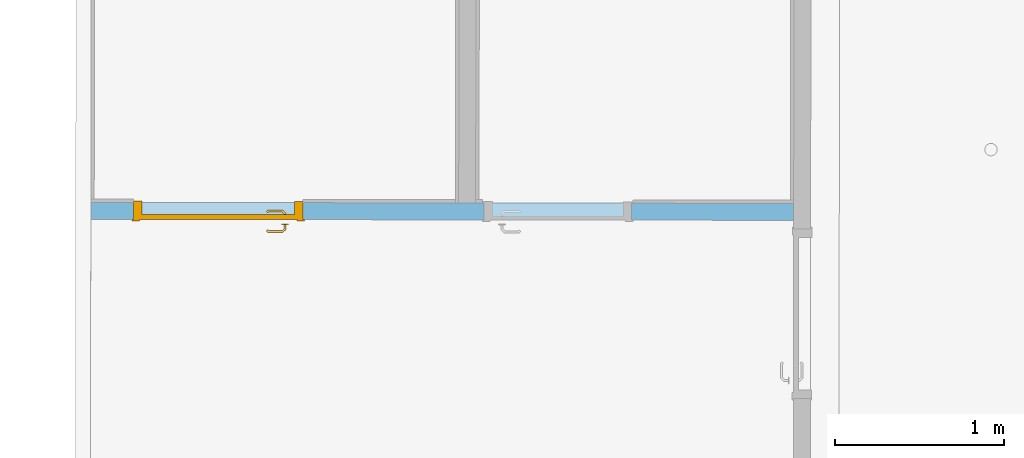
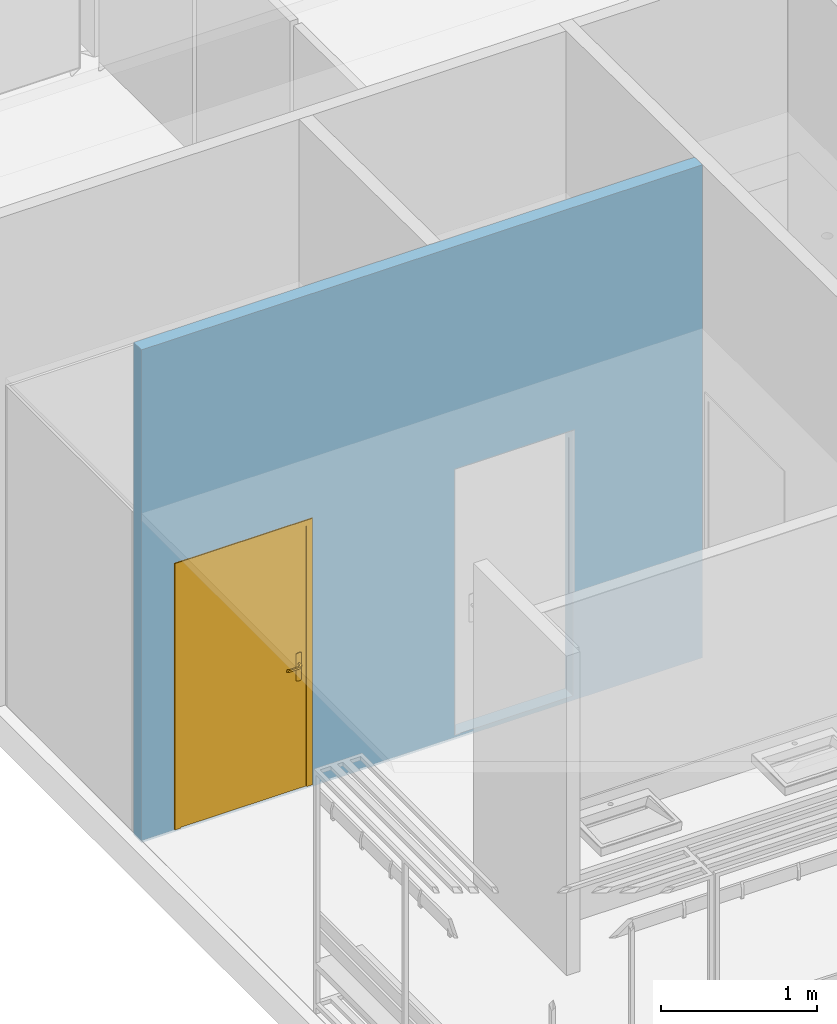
# One storey, part 24 of 43: 1 door, 2 openings, plus 1 element that does not belong to this part.
"""IFC2X3 building model written with IfcOpenShell, lengths in metres."""

from ifc_helpers import new_model, entity, si_unit, converted_unit, derived_unit, direction, frame, frame_2d, origin, place, context, subcontext, project, spatial, polyline, rectangle, outline, extrude, clip, bounded_halfspace, faceted_brep, source, transform, mapped, material, material_list, layer, layer_set, layer_usage, type_object, type_shapes, element, fill, save


model = new_model("IFC2X3")

# Units and contexts
model_context = context("Model", 3, precision=1e-05, world=origin(), true_north=direction((6.123233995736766e-17, 1.0)))
body_context = subcontext(model_context, "Body", "Model", "MODEL_VIEW")
ifc_project = project(units=[si_unit("LENGTHUNIT", "METRE"), si_unit("AREAUNIT", "SQUARE_METRE"), converted_unit("PLANEANGLEUNIT", "DEGREE", entity("IfcPlaneAngleMeasure", 0.017453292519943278), si_unit("PLANEANGLEUNIT", "RADIAN"), dimensions=[0, 0, 0, 0, 0, 0, 0]), derived_unit("THERMALTRANSMITTANCEUNIT", [(si_unit("MASSUNIT", "GRAM", prefix="KILO"), 1), (si_unit("THERMODYNAMICTEMPERATUREUNIT", "KELVIN"), -1), (si_unit("TIMEUNIT", "SECOND"), -3)])], contexts=[model_context])

# Site, building, storey
site_placement = place(None, frame((1253.6752467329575, 2072.143113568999, 91.49999999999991), z_axis=(0.0, 0.0, 1.0), x_axis=(0.7237211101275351, 0.6900925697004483, 0.0)))
site = spatial("IfcSite", under=ifc_project, at=site_placement, Name="Surface", CompositionType="ELEMENT")
building_placement = place(site_placement, origin())
building = spatial("IfcBuilding", under=site, at=building_placement, CompositionType="ELEMENT")
storey_placement = place(building_placement, frame((0.0, 0.0, -4.629999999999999)))
storey = spatial("IfcBuildingStorey", under=building, at=storey_placement, Name="rez de rue -1.10m", CompositionType="ELEMENT", Elevation=-4.629999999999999)

# Wall, openings, door
ifc_material_1 = material(Name="OMD_Cloison 100mm")
ifc_layer = layer(ifc_material_1, 0.1)
ifc_layer_set = layer_set([ifc_layer], Name="Mur de base:Cloison 100mm")
ifc_layer_usage = layer_usage(ifc_layer_set, "AXIS2", "NEGATIVE", 0.05)
wall_type = type_object("IfcWallType", Name="Mur de base:Cloison 100mm", PredefinedType="STANDARD", material=ifc_layer_set)
wall_placement = place(storey_placement, frame((163.2212890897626, 4.33212584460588, -0.019999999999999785), z_axis=(0.0, 0.0, 1.0), x_axis=(0.7227070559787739, -0.6911544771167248, 0.0)))
wall = element("IfcWallStandardCase", 1, at=wall_placement, inside=storey, type_object=wall_type, material=ifc_layer_usage, Name="Mur de base:Cloison 100mm", ObjectType="Mur de base:Cloison 100mm", context=body_context, shape_type="Clipping", body=[
    clip(clip(extrude(outline(polyline([(4.147726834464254, -0.05000000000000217), (4.14772683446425, 0.049999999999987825), (0.0, 0.04999999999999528), (2.3611774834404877e-05, -0.04999999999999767), (4.147726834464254, -0.05000000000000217)])), origin(), (0.0, 0.0, 1.0), 3.8572116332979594), bounded_halfspace(frame((4.147726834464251, -0.05000000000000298, 3.8572116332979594), z_axis=(0.0, 0.00890106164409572, 0.9999603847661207), x_axis=(-1.0, 0.0, 0.0)), False, frame((4.147726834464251, -0.05000000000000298, 3.8572116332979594)), polyline([(0.0, 0.0), (0.0, 0.09999999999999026), (-1.011275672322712, 0.09999999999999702), (-1.0105571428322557, 0.0), (0.0, 0.0)]))), bounded_halfspace(frame((0.0, 0.04999999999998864, 3.8559203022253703), z_axis=(-0.00012790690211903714, 0.008900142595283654, 0.9999603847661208), x_axis=(-0.9998967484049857, -0.014369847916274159, 0.0)), False, frame((0.0, 0.04999999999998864, 3.8559203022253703)), polyline([(0.0, 0.0), (2.361177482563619e-05, -0.09999999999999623), (3.1371696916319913, -0.10000000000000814), (3.136451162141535, 0.0), (2.270801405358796, 0.0), (2.1708014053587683, 0.0), (0.0, 0.0)]))),
])
opening_1_placement = place(wall_placement, frame((1.2515590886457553, 0.049999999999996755, 0.019999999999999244)))
opening_1 = element("IfcOpeningElement", 2, at=opening_1_placement, cuts=wall, Name="Grz_porte 1V recouvrement 30°:93x204:1", ObjectType="Opening", context=body_context, shape_type="SweptSolid", body=[
    extrude(rectangle(XDim=2.0749999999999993, YDim=0.999999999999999, at=frame_2d((1.0374999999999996, 0.4999999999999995), x_axis=(1.0, 0.0))), frame((0.0, 0.0, 0.0), z_axis=(0.0, -1.0, 0.0), x_axis=(0.0, 0.0, 1.0)), (0.0, 0.0, 1.0), 0.1),
])
opening_2_placement = place(wall_placement, frame((3.1908014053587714, 0.050000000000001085, 0.03499999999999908)))
element("IfcOpeningElement", 3, at=opening_2_placement, cuts=wall, Name="Grz_porte 1V recouvrement 30°:80x204:1", ObjectType="Opening", context=body_context, shape_type="SweptSolid", body=[
    extrude(rectangle(XDim=2.0749999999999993, YDim=0.8699999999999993, at=frame_2d((1.0374999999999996, 0.43500000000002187), x_axis=(1.0, 0.0))), frame((0.0, 0.0, 0.0), z_axis=(0.0, -1.0, 0.0), x_axis=(0.0, 0.0, 1.0)), (0.0, 0.0, 1.0), 0.1),
])
ifc_material_2 = material(Name="Porte - Poignée")
ifc_material_3 = material(Name="Porte - Cadre")
ifc_material_4 = material(Name="Porte - Panneau")
ifc_material_list = material_list([ifc_material_2, ifc_material_3, ifc_material_4])
door_style = type_object("IfcDoorStyle", Name="Grz_porte 1V recouvrement 30°:93x204", ConstructionType="NOTDEFINED", OperationType="SINGLE_SWING_LEFT", ParameterTakesPrecedence=False, Sizeable=False, material=ifc_material_list)
shared_shape = source(origin(), body_context, "Body", "Brep", [
    faceted_brep([(0.897025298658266, 0.009999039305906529, 1.0077804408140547), (0.8929747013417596, 0.009999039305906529, 1.007780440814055), (0.8889999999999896, 0.009999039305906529, 1.0069999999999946), (0.8889999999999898, 0.009999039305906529, 0.9930000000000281), (0.8929747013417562, 0.009999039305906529, 0.992219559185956), (0.8970252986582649, 0.009999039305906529, 0.9922195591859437), (0.9010000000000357, 0.009999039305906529, 0.9929999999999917), (0.9010000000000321, 0.009999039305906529, 1.0069999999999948), (0.8889999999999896, 0.03248424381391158, 1.0069999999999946), (0.8889999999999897, 0.0324842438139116, 0.9930000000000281), (0.8929747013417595, 0.03413061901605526, 1.007780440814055), (0.8970252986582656, 0.035808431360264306, 1.0077804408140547), (0.8808389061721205, 0.05199482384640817, 1.0077804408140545), (0.8791610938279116, 0.04794422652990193, 1.0077804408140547), (0.7957931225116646, 0.047944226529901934, 1.0077804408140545), (0.7941153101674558, 0.051994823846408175, 1.0077804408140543), (0.7864510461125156, 0.04433055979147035, 1.0077804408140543), (0.7893152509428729, 0.0414663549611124, 1.0077804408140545), (0.9010000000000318, 0.03745480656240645, 1.0069999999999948), (0.9010000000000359, 0.037454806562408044, 0.9929999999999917), (0.8970252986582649, 0.03580843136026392, 0.9922195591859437), (0.8929747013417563, 0.03413061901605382, 0.992219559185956), (0.8791610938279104, 0.0479442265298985, 0.9922195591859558), (0.8808389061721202, 0.051994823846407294, 0.9922195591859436), (0.7941153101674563, 0.0519948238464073, 0.9922195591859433), (0.7957931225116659, 0.04794422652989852, 0.9922195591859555), (0.7893152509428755, 0.04146635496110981, 0.9922195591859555), (0.7864510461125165, 0.04433055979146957, 0.9922195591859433), (0.8775147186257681, 0.04396952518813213, 1.0069999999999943), (0.8775147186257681, 0.04396952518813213, 0.993000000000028), (0.8824852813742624, 0.05596952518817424, 1.0069999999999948), (0.8824852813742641, 0.05596952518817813, 0.9929999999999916), (0.837477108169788, 0.04396952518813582, 1.0069999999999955), (0.7974394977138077, 0.04396952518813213, 1.0069999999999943), (0.7974394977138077, 0.043969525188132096, 0.9930000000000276), (0.8374770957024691, 0.04396952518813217, 0.9930000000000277), (0.8374771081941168, 0.05012396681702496, 1.007878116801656), (0.832399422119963, 0.05596952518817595, 1.0069999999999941), (0.7924689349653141, 0.05596952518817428, 1.0069999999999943), (0.8425547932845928, 0.05596952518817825, 0.9929999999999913), (0.7924689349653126, 0.05596952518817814, 0.9929999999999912), (0.8374771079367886, 0.05012396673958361, 0.9921218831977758), (0.7836405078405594, 0.0471410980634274, 1.0069999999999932), (0.7836405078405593, 0.04714109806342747, 0.9929999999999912), (0.7921257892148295, 0.03865581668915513, 0.9930000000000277), (0.7921257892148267, 0.03865581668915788, 1.0069999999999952)], [[[0, 1, 2, 3, 4, 5, 6, 7]], [[8, 9, 3, 2]], [[1, 10, 8, 2]], [[1, 0, 11, 12, 13, 10]], [[14, 15, 16, 17]], [[7, 18, 11, 0]], [[18, 7, 6, 19]], [[6, 5, 20, 19]], [[5, 4, 21, 22, 23, 20]], [[24, 25, 26, 27]], [[4, 3, 9, 21]], [[28, 29, 9, 8]], [[8, 10, 13, 28]], [[18, 30, 12, 11]], [[30, 18, 19, 31]], [[19, 20, 23, 31]], [[21, 9, 29, 22]], [[29, 28, 32, 33, 34, 35]], [[36, 32, 13]], [[37, 38, 15]], [[37, 12, 30]], [[36, 12, 37]], [[14, 32, 36]], [[36, 15, 14]], [[28, 13, 32]], [[32, 14, 33]], [[12, 36, 13]], [[15, 36, 37]], [[30, 31, 39, 40, 38, 37]], [[23, 41, 39]], [[24, 39, 41]], [[39, 31, 23]], [[39, 24, 40]], [[22, 35, 41]], [[41, 23, 22]], [[41, 35, 25]], [[35, 22, 29]], [[34, 25, 35]], [[24, 41, 25]], [[17, 16, 42, 43, 27, 26, 44, 45]], [[45, 44, 34, 33]], [[33, 14, 17, 45]], [[15, 38, 42, 16]], [[43, 42, 38, 40]], [[24, 27, 43, 40]], [[34, 44, 26, 25]]]),
    faceted_brep([(0.89297470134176, -0.030000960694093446, 1.007780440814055), (0.8970252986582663, -0.030000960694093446, 1.0077804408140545), (0.9010000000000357, -0.030000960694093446, 1.0069999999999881), (0.9010000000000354, -0.030000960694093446, 0.9929999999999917), (0.8970252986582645, -0.030000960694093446, 0.9922195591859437), (0.8929747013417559, -0.030000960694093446, 0.992219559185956), (0.8889999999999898, -0.030000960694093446, 0.9930000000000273), (0.8889999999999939, -0.030000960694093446, 1.0069999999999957), (0.8970252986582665, -0.05600553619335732, 1.0077804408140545), (0.9010000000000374, -0.05765191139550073, 1.0069999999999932), (0.8929747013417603, -0.054327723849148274, 1.007780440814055), (0.879298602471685, -0.0680038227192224, 1.0077804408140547), (0.880976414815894, -0.07205442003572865, 1.0077804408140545), (0.7941424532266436, -0.07205442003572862, 1.007780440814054), (0.7958202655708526, -0.06800382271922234, 1.0077804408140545), (0.7893423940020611, -0.061525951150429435, 1.0077804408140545), (0.7864781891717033, -0.06439015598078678, 1.007780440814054), (0.888999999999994, -0.05268134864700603, 1.0069999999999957), (0.8889999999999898, -0.052681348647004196, 0.9930000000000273), (0.8929747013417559, -0.05432772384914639, 0.992219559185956), (0.8970252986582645, -0.05600553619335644, 0.9922195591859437), (0.8809764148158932, -0.07205442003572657, 0.9922195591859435), (0.8792986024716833, -0.06800382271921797, 0.9922195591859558), (0.7958202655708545, -0.06800382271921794, 0.9922195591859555), (0.7941424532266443, -0.07205442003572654, 0.9922195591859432), (0.7864781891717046, -0.06439015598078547, 0.9922195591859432), (0.7893423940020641, -0.06152595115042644, 0.9922195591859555), (0.9010000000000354, -0.05765191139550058, 0.9929999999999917), (0.8826227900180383, -0.07602912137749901, 1.006999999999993), (0.8776522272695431, -0.06402912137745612, 1.0069999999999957), (0.8776522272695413, -0.06402912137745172, 0.9930000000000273), (0.882622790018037, -0.0760291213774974, 0.9929999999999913), (0.8375594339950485, -0.07018376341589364, 1.0078781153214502), (0.8426923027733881, -0.07602912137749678, 1.0069999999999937), (0.7924960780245, -0.07602912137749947, 1.0069999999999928), (0.8375594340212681, -0.06402912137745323, 1.0069999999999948), (0.797466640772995, -0.06402912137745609, 1.0069999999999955), (0.8375594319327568, -0.06402912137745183, 0.9930000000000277), (0.7974666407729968, -0.0640291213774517, 0.993000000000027), (0.837559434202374, -0.07018376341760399, 0.9921218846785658), (0.8324265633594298, -0.07602912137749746, 0.9929999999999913), (0.7924960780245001, -0.07602912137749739, 0.9929999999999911), (0.7921529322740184, -0.058715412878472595, 0.9930000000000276), (0.7836676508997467, -0.06720069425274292, 0.9929999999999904), (0.783667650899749, -0.06720069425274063, 1.0069999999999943), (0.7921529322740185, -0.058715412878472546, 1.0069999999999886)], [[[0, 1, 2, 3, 4, 5, 6, 7]], [[2, 1, 8, 9]], [[1, 0, 10, 11, 12, 8]], [[13, 14, 15, 16]], [[0, 7, 17, 10]], [[17, 7, 6, 18]], [[5, 19, 18, 6]], [[5, 4, 20, 21, 22, 19]], [[23, 24, 25, 26]], [[3, 27, 20, 4]], [[9, 27, 3, 2]], [[9, 8, 12, 28]], [[10, 17, 29, 11]], [[29, 17, 18, 30]], [[18, 19, 22, 30]], [[20, 27, 31, 21]], [[28, 31, 27, 9]], [[12, 32, 33]], [[13, 33, 32]], [[33, 28, 12]], [[33, 13, 34]], [[11, 35, 32]], [[32, 12, 11]], [[32, 35, 14]], [[35, 11, 29]], [[36, 14, 35]], [[13, 32, 14]], [[30, 37, 38, 36, 35, 29]], [[39, 37, 22]], [[40, 41, 24]], [[40, 21, 31]], [[39, 21, 40]], [[23, 37, 39]], [[39, 24, 23]], [[30, 22, 37]], [[37, 23, 38]], [[21, 39, 22]], [[24, 39, 40]], [[31, 28, 33, 34, 41, 40]], [[42, 26, 25, 43, 44, 16, 15, 45]], [[13, 16, 44, 34]], [[36, 45, 15, 14]], [[45, 36, 38, 42]], [[38, 23, 26, 42]], [[24, 41, 43, 25]], [[44, 43, 41, 34]]]),
    faceted_brep([(0.8950000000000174, 0.004999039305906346, 0.8646410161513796), (0.9053527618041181, 0.0049990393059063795, 0.8660039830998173), (0.9150000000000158, 0.004999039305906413, 0.870000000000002), (0.9150000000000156, 0.004999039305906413, 1.0800000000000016), (0.9053527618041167, 0.0049990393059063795, 1.0839960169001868), (0.8950000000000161, 0.004999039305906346, 1.085358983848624), (0.8846472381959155, 0.004999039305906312, 1.0839960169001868), (0.8750000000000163, 0.004999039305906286, 1.0800000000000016), (0.8750000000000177, 0.004999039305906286, 0.8700000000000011), (0.8846472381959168, 0.004999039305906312, 0.8660039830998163), (0.8950000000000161, 0.00999903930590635, 1.085358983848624), (0.9053527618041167, 0.009999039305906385, 1.0839960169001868), (0.9150000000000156, 0.009999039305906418, 1.0800000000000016), (0.9150000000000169, 0.009999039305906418, 0.8700000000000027), (0.9053527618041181, 0.009999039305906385, 0.8660039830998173), (0.8950000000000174, 0.00999903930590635, 0.8646410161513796), (0.8846472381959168, 0.009999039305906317, 0.8660039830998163), (0.8750000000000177, 0.009999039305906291, 0.8700000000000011), (0.8750000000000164, 0.009999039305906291, 1.0800000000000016), (0.8846472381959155, 0.009999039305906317, 1.0839960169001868)], [[[0, 1, 2, 3, 4, 5, 6, 7, 8, 9]], [[10, 11, 12, 13, 14, 15, 16, 17, 18, 19]], [[6, 19, 18, 7]], [[5, 10, 19, 6]], [[4, 11, 10, 5]], [[4, 3, 12, 11]], [[12, 3, 2, 13]], [[1, 14, 13, 2]], [[0, 15, 14, 1]], [[9, 16, 15, 0]], [[9, 8, 17, 16]], [[17, 8, 7, 18]]]),
    faceted_brep([(0.8950000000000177, -0.030000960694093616, 0.8646410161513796), (0.9053527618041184, -0.03000096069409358, 0.8660039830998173), (0.9150000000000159, -0.030000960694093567, 0.8700000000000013), (0.9150000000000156, -0.030000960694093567, 1.0800000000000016), (0.9053527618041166, -0.03000096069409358, 1.0839960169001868), (0.895000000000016, -0.030000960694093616, 1.085358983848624), (0.8846472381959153, -0.03000096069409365, 1.0839960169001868), (0.8750000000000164, -0.030000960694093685, 1.0800000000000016), (0.8750000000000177, -0.030000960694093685, 0.8700000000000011), (0.884647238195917, -0.03000096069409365, 0.8660039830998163), (0.9150000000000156, -0.02500096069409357, 1.0800000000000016), (0.9150000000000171, -0.02500096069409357, 0.8700000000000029), (0.9053527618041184, -0.0250009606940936, 0.8660039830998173), (0.8950000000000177, -0.025000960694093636, 0.8646410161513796), (0.884647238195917, -0.02500096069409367, 0.8660039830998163), (0.8750000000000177, -0.025000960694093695, 0.8700000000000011), (0.8750000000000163, -0.025000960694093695, 1.0800000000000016), (0.8846472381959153, -0.02500096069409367, 1.0839960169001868), (0.895000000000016, -0.025000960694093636, 1.085358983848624), (0.9053527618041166, -0.0250009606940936, 1.0839960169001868)], [[[0, 1, 2, 3, 4, 5, 6, 7, 8, 9]], [[10, 11, 12, 13, 14, 15, 16, 17, 18, 19]], [[1, 12, 11, 2]], [[0, 13, 12, 1]], [[9, 14, 13, 0]], [[9, 8, 15, 14]], [[15, 8, 7, 16]], [[6, 17, 16, 7]], [[5, 18, 17, 6]], [[4, 19, 18, 5]], [[4, 3, 10, 19]], [[10, 3, 2, 11]]]),
    faceted_brep([(1.0, -9.606940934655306e-07, 0.0), (1.0100000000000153, -9.606940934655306e-07, 0.0), (1.0100000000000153, -0.00800096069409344, 0.0), (0.9650000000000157, -0.00800096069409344, 0.0), (0.9650000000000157, 0.029999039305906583, 0.0), (0.9500000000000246, 0.029999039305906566, 0.0), (0.9500000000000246, 0.10799903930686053, 0.0), (1.0100000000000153, 0.10799903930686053, 0.0), (1.0100000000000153, 0.09999903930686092, 0.0), (1.0, 0.09999903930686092, 0.0), (1.0, 0.09999903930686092, 2.0749999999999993), (1.0, -9.606940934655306e-07, 2.0749999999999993), (1.0100000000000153, 0.09999903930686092, 2.084999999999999), (-0.009999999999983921, 0.09999903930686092, 2.084999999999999), (-0.009999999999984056, 0.09999903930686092, 0.0), (0.0, 0.09999903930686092, 0.0), (0.0, 0.09999903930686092, 2.0749999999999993), (1.0100000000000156, 0.10799903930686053, 2.084999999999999), (0.9500000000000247, 0.10799903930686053, 2.0250000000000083), (0.050000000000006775, 0.10799903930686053, 2.0250000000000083), (0.05000000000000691, 0.10799903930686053, 0.0), (-0.009999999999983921, 0.10799903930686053, 0.0), (-0.009999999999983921, 0.10799903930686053, 2.084999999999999), (0.9500000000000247, 0.029999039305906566, 2.0250000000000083), (0.9650000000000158, 0.029999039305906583, 2.0399999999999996), (0.035000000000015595, 0.029999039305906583, 2.0399999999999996), (0.035000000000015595, 0.029999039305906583, 0.0), (0.050000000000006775, 0.029999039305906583, 0.0), (0.050000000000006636, 0.029999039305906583, 2.0250000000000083), (0.9650000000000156, -0.00800096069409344, 2.0399999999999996), (1.0100000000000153, -0.00800096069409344, 2.084999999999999), (-0.009999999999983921, -0.00800096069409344, 2.084999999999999), (-0.009999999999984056, -0.00800096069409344, 0.0), (0.035000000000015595, -0.00800096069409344, 0.0), (0.035000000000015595, -0.00800096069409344, 2.0399999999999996), (1.0100000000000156, -9.606940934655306e-07, 2.084999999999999), (0.0, -9.606940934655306e-07, 2.0749999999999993), (0.0, -9.606940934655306e-07, 0.0), (-0.009999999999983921, -9.606940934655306e-07, 0.0), (-0.009999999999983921, -9.606940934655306e-07, 2.084999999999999)], [[[0, 1, 2, 3, 4, 5, 6, 7, 8, 9]], [[9, 10, 11, 0]], [[8, 12, 13, 14, 15, 16, 10, 9]], [[7, 17, 12, 8]], [[6, 18, 19, 20, 21, 22, 17, 7]], [[5, 23, 18, 6]], [[4, 24, 25, 26, 27, 28, 23, 5]], [[3, 29, 24, 4]], [[2, 30, 31, 32, 33, 34, 29, 3]], [[1, 35, 30, 2]], [[0, 11, 36, 37, 38, 39, 35, 1]], [[16, 15, 37, 36]], [[37, 15, 14, 21, 20, 27, 26, 33, 32, 38]], [[22, 21, 14, 13]], [[28, 27, 20, 19]], [[34, 33, 26, 25]], [[39, 38, 32, 31]], [[10, 16, 36, 11]], [[17, 22, 13, 12]], [[23, 28, 19, 18]], [[29, 34, 25, 24]], [[35, 39, 31, 30]]]),
    faceted_brep([(0.9650000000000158, -9.606940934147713e-07, 2.0399999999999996), (0.035000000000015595, -9.606940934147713e-07, 2.0399999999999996), (0.03500000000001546, -9.606940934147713e-07, 0.0), (0.9650000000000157, -9.606940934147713e-07, 0.0), (0.9650000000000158, 0.029999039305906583, 2.0399999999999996), (0.9650000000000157, 0.029999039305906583, 0.0), (0.03500000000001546, 0.029999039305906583, 0.0), (0.035000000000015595, 0.029999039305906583, 2.0399999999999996)], [[[0, 1, 2, 3]], [[4, 5, 6, 7]], [[3, 5, 4, 0]], [[2, 6, 5, 3]], [[1, 7, 6, 2]], [[0, 4, 7, 1]]]),
])
type_shapes(door_style, [shared_shape])
door_placement = place(opening_1_placement, frame((-1.0, -0.09999903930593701, 0.0)))
door = element("IfcDoor", 4, at=door_placement, inside=storey, type_object=door_style, material=ifc_material_list, Name="Grz_porte 1V recouvrement 30°:93x204", ObjectType="Grz_porte 1V recouvrement 30°:93x204", OverallHeight=2.0749999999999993, OverallWidth=0.9999999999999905, context=body_context, shape_type="MappedRepresentation", body=[
    mapped(shared_shape, transform((0.0, 0.0, 0.0), scale=1.0)),
])
fill(opening_1, door)

save(model, "model.ifc")
